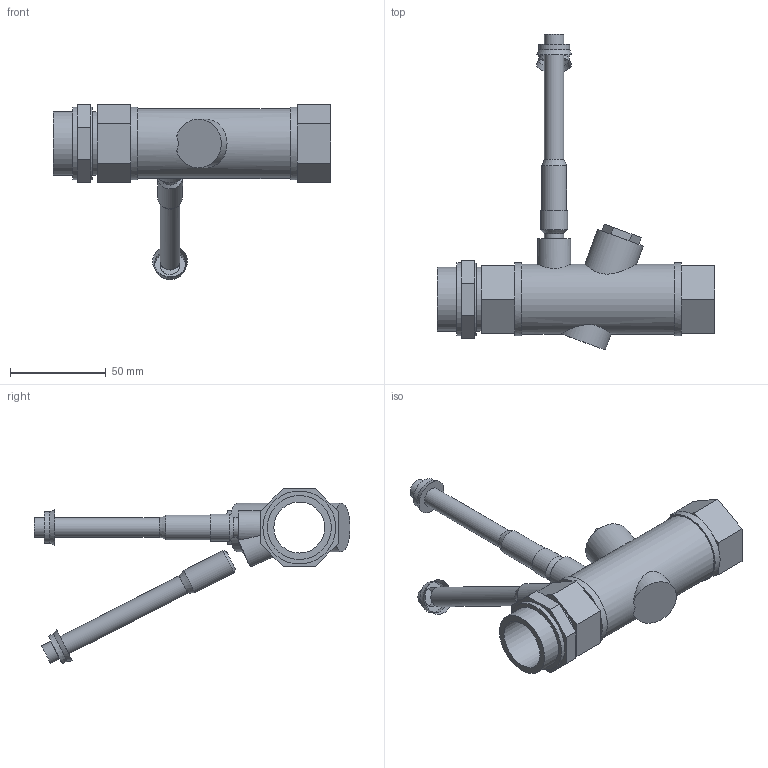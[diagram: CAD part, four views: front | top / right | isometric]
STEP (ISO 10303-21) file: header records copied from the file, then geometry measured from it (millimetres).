
FILE_DESCRIPTION(/* description */ ('VIC VALVE AUTO BALANCING SERIES 76K (SWTxFPT)','CAx-IF Rec.Pracs.---Representation and Presentation of Product Manufacturing Information (PMI)---4.0---2014-10-13'),/* implementation_level */ '2;1');
FILE_NAME(/* name */ 'C:\Users\kkamble\Desktop\KIRAN\2022\76B & 76K\76K\STEP\Victaulic_IPS_Valve Auto Balancing_Series 76K (SWTxFPT)\Victaulic_IPS_Valve Auto Balancing_Series 76K (SWTxFPT)_HIGH_FLOW_1 (25).stp',/* time_stamp */ '2022-03-04T13:34:12+05:00',/* author */ ('kkamble'),/* organization */ ('Victaulic'),/* preprocessor_version */ 'ST-DEVELOPER v17.2',/* originating_system */ 'Autodesk Inventor 2019',/* authorisation */ '');
FILE_SCHEMA (('AP242_MANAGED_MODEL_BASED_3D_ENGINEERING_MIM_LF { 1 0 10303 442 1 1 4 }'));
Length unit declared in the file: inch
Products named in the file (1): 76K_HIGH_FLOW-01.0
Bounding box: 144.78 x 165.08 x 91.72 mm (x, y, z)
Volume: 81037.8 mm3; surface area: 45725.9 mm2
Topology: 2 solids, 2 shells, 109 faces, 269 edges, 175 vertices
Faces by surface type: plane 71, cylinder 24, cone 14
Full cylindrical faces by diameter (mm): 10.16 x5, 12.954 x2, 14.122 x1, 16.256 x1, 25.4 x1, 26.645 x1, 33.401 x3, 36.576 x1, 38.1 x3
Entity records: 3686 total; most frequent: CARTESIAN_POINT 785, DIRECTION 617, ORIENTED_EDGE 534, EDGE_CURVE 267, AXIS2_PLACEMENT_3D 240, VERTEX_POINT 177, LINE 137, VECTOR 137
